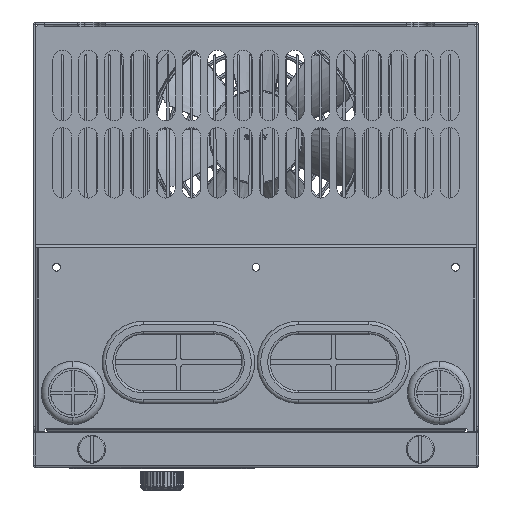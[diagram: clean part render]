
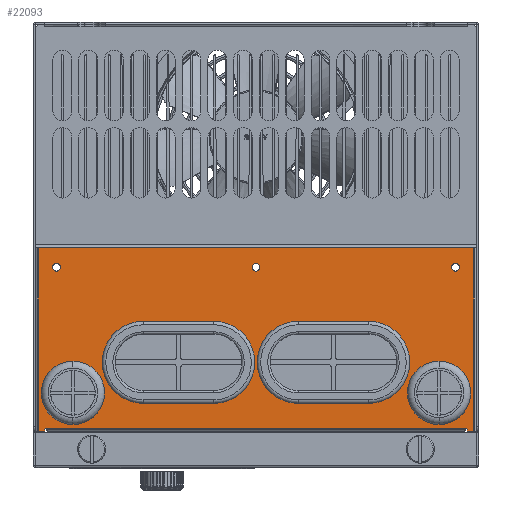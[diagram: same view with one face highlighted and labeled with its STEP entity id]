
A CAD part, left-side view. The second image highlights one B-rep face of the part: STEP entity #22093.
In plain terms, the highlighted planar face has unit normal (-1, 0, 0).
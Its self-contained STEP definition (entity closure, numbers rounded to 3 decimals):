
#18586=DIRECTION('',(0.,1.,0.));
#18587=VECTOR('',#18586,185.6);
#18588=CARTESIAN_POINT('',(-140.,-92.8,-96.2));
#18589=LINE('',#18588,#18587);
#18602=CARTESIAN_POINT('',(-140.,89.5,-173.8));
#18603=DIRECTION('',(-1.,0.,0.));
#18604=DIRECTION('',(0.,0.,1.));
#18605=AXIS2_PLACEMENT_3D('',#18602,#18603,#18604);
#18607=DIRECTION('',(0.,0.,-1.));
#18608=VECTOR('',#18607,0.7);
#18609=CARTESIAN_POINT('',(-140.,90.,-173.8));
#18610=LINE('',#18609,#18608);
#18611=DIRECTION('',(0.,1.,0.));
#18612=VECTOR('',#18611,2.8);
#18613=CARTESIAN_POINT('',(-140.,90.,-174.5));
#18614=LINE('',#18613,#18612);
#18615=DIRECTION('',(0.,1.,0.));
#18616=VECTOR('',#18615,2.8);
#18617=CARTESIAN_POINT('',(-140.,-92.8,-174.5));
#18618=LINE('',#18617,#18616);
#18619=CARTESIAN_POINT('',(-140.,-89.5,-173.8));
#18620=DIRECTION('',(-1.,0.,0.));
#18621=DIRECTION('',(0.,-1.,0.));
#18622=AXIS2_PLACEMENT_3D('',#18619,#18620,#18621);
#18624=CARTESIAN_POINT('',(-140.,78.,-158.));
#18625=DIRECTION('',(-1.,0.,0.));
#18626=DIRECTION('',(0.,-1.,0.));
#18627=AXIS2_PLACEMENT_3D('',#18624,#18625,#18626);
#18629=CARTESIAN_POINT('',(-140.,78.,-158.));
#18630=DIRECTION('',(-1.,0.,0.));
#18631=DIRECTION('',(0.,1.,0.));
#18632=AXIS2_PLACEMENT_3D('',#18629,#18630,#18631);
#18634=CARTESIAN_POINT('',(-140.,-78.,-158.));
#18635=DIRECTION('',(-1.,0.,0.));
#18636=DIRECTION('',(0.,-1.,0.));
#18637=AXIS2_PLACEMENT_3D('',#18634,#18635,#18636);
#18639=CARTESIAN_POINT('',(-140.,-78.,-158.));
#18640=DIRECTION('',(-1.,0.,0.));
#18641=DIRECTION('',(0.,1.,0.));
#18642=AXIS2_PLACEMENT_3D('',#18639,#18640,#18641);
#18644=DIRECTION('',(0.,-1.,0.));
#18645=VECTOR('',#18644,30.);
#18646=CARTESIAN_POINT('',(-140.,48.,-159.));
#18647=LINE('',#18646,#18645);
#18648=CARTESIAN_POINT('',(-140.,18.,-145.));
#18649=DIRECTION('',(-1.,0.,0.));
#18650=DIRECTION('',(0.,0.,-1.));
#18651=AXIS2_PLACEMENT_3D('',#18648,#18649,#18650);
#18653=DIRECTION('',(0.,1.,0.));
#18654=VECTOR('',#18653,30.);
#18655=CARTESIAN_POINT('',(-140.,18.,-131.));
#18656=LINE('',#18655,#18654);
#18657=CARTESIAN_POINT('',(-140.,48.,-145.));
#18658=DIRECTION('',(-1.,0.,0.));
#18659=DIRECTION('',(0.,0.,1.));
#18660=AXIS2_PLACEMENT_3D('',#18657,#18658,#18659);
#18662=CARTESIAN_POINT('',(-140.,-18.,-145.));
#18663=DIRECTION('',(-1.,0.,0.));
#18664=DIRECTION('',(0.,0.,1.));
#18665=AXIS2_PLACEMENT_3D('',#18662,#18663,#18664);
#18667=DIRECTION('',(0.,-1.,0.));
#18668=VECTOR('',#18667,30.);
#18669=CARTESIAN_POINT('',(-140.,-18.,-159.));
#18670=LINE('',#18669,#18668);
#18671=CARTESIAN_POINT('',(-140.,-48.,-145.));
#18672=DIRECTION('',(-1.,0.,0.));
#18673=DIRECTION('',(0.,0.,-1.));
#18674=AXIS2_PLACEMENT_3D('',#18671,#18672,#18673);
#18676=DIRECTION('',(0.,1.,0.));
#18677=VECTOR('',#18676,30.);
#18678=CARTESIAN_POINT('',(-140.,-48.,-131.));
#18679=LINE('',#18678,#18677);
#18680=CARTESIAN_POINT('',(-140.,-85.,-104.5));
#18681=DIRECTION('',(-1.,0.,0.));
#18682=DIRECTION('',(0.,-1.,0.));
#18683=AXIS2_PLACEMENT_3D('',#18680,#18681,#18682);
#18685=CARTESIAN_POINT('',(-140.,-85.,-104.5));
#18686=DIRECTION('',(-1.,0.,0.));
#18687=DIRECTION('',(0.,1.,0.));
#18688=AXIS2_PLACEMENT_3D('',#18685,#18686,#18687);
#18690=CARTESIAN_POINT('',(-140.,0.,-104.5));
#18691=DIRECTION('',(-1.,0.,0.));
#18692=DIRECTION('',(0.,-1.,0.));
#18693=AXIS2_PLACEMENT_3D('',#18690,#18691,#18692);
#18695=CARTESIAN_POINT('',(-140.,0.,-104.5));
#18696=DIRECTION('',(-1.,0.,0.));
#18697=DIRECTION('',(0.,1.,0.));
#18698=AXIS2_PLACEMENT_3D('',#18695,#18696,#18697);
#18700=CARTESIAN_POINT('',(-140.,85.,-104.5));
#18701=DIRECTION('',(-1.,0.,0.));
#18702=DIRECTION('',(0.,-1.,0.));
#18703=AXIS2_PLACEMENT_3D('',#18700,#18701,#18702);
#18705=CARTESIAN_POINT('',(-140.,85.,-104.5));
#18706=DIRECTION('',(-1.,0.,0.));
#18707=DIRECTION('',(0.,1.,0.));
#18708=AXIS2_PLACEMENT_3D('',#18705,#18706,#18707);
#18710=DIRECTION('',(0.,-1.,0.));
#18711=VECTOR('',#18710,179.);
#18712=CARTESIAN_POINT('',(-140.,89.5,-173.3));
#18713=LINE('',#18712,#18711);
#18771=DIRECTION('',(0.,0.,-1.));
#18772=VECTOR('',#18771,0.7);
#18773=CARTESIAN_POINT('',(-140.,-90.,-173.8));
#18774=LINE('',#18773,#18772);
#18801=DIRECTION('',(0.,0.,1.));
#18802=VECTOR('',#18801,78.3);
#18803=CARTESIAN_POINT('',(-140.,-92.8,-174.5));
#18804=LINE('',#18803,#18802);
#19236=DIRECTION('',(0.,0.,-1.));
#19237=VECTOR('',#19236,78.3);
#19238=CARTESIAN_POINT('',(-140.,92.8,-96.2));
#19239=LINE('',#19238,#19237);
#20962=CARTESIAN_POINT('',(-140.,-92.8,-96.2));
#20963=CARTESIAN_POINT('',(-140.,92.8,-96.2));
#20964=VERTEX_POINT('',#20962);
#20965=VERTEX_POINT('',#20963);
#20970=CARTESIAN_POINT('',(-140.,89.5,-173.3));
#20971=CARTESIAN_POINT('',(-140.,-89.5,-173.3));
#20972=VERTEX_POINT('',#20970);
#20973=VERTEX_POINT('',#20971);
#20974=CARTESIAN_POINT('',(-140.,90.,-173.8));
#20975=VERTEX_POINT('',#20974);
#20976=CARTESIAN_POINT('',(-140.,90.,-174.5));
#20977=VERTEX_POINT('',#20976);
#20978=CARTESIAN_POINT('',(-140.,92.8,-174.5));
#20979=VERTEX_POINT('',#20978);
#20980=CARTESIAN_POINT('',(-140.,-92.8,-174.5));
#20981=VERTEX_POINT('',#20980);
#20982=CARTESIAN_POINT('',(-140.,-90.,-174.5));
#20983=VERTEX_POINT('',#20982);
#20984=CARTESIAN_POINT('',(-140.,-90.,-173.8));
#20985=VERTEX_POINT('',#20984);
#20986=CARTESIAN_POINT('',(-140.,67.,-158.));
#20987=CARTESIAN_POINT('',(-140.,89.,-158.));
#20988=VERTEX_POINT('',#20986);
#20989=VERTEX_POINT('',#20987);
#20990=CARTESIAN_POINT('',(-140.,-89.,-158.));
#20991=CARTESIAN_POINT('',(-140.,-67.,-158.));
#20992=VERTEX_POINT('',#20990);
#20993=VERTEX_POINT('',#20991);
#20994=CARTESIAN_POINT('',(-140.,48.,-159.));
#20995=CARTESIAN_POINT('',(-140.,18.,-159.));
#20996=VERTEX_POINT('',#20994);
#20997=VERTEX_POINT('',#20995);
#20998=CARTESIAN_POINT('',(-140.,18.,-131.));
#20999=VERTEX_POINT('',#20998);
#21000=CARTESIAN_POINT('',(-140.,48.,-131.));
#21001=VERTEX_POINT('',#21000);
#21002=CARTESIAN_POINT('',(-140.,-18.,-131.));
#21003=CARTESIAN_POINT('',(-140.,-18.,-159.));
#21004=VERTEX_POINT('',#21002);
#21005=VERTEX_POINT('',#21003);
#21006=CARTESIAN_POINT('',(-140.,-48.,-159.));
#21007=VERTEX_POINT('',#21006);
#21008=CARTESIAN_POINT('',(-140.,-48.,-131.));
#21009=VERTEX_POINT('',#21008);
#21010=CARTESIAN_POINT('',(-140.,-86.65,-104.5));
#21011=CARTESIAN_POINT('',(-140.,-83.35,-104.5));
#21012=VERTEX_POINT('',#21010);
#21013=VERTEX_POINT('',#21011);
#21014=CARTESIAN_POINT('',(-140.,-1.65,-104.5));
#21015=CARTESIAN_POINT('',(-140.,1.65,-104.5));
#21016=VERTEX_POINT('',#21014);
#21017=VERTEX_POINT('',#21015);
#21018=CARTESIAN_POINT('',(-140.,83.35,-104.5));
#21019=CARTESIAN_POINT('',(-140.,86.65,-104.5));
#21020=VERTEX_POINT('',#21018);
#21021=VERTEX_POINT('',#21019);
#22017=CARTESIAN_POINT('',(-140.,94.,-95.));
#22018=DIRECTION('',(-1.,0.,0.));
#22019=DIRECTION('',(0.,1.,0.));
#22020=AXIS2_PLACEMENT_3D('',#22017,#22018,#22019);
#22021=PLANE('',#22020);
#22023=ORIENTED_EDGE('',*,*,#22022,.F.);
#22025=ORIENTED_EDGE('',*,*,#22024,.T.);
#22027=ORIENTED_EDGE('',*,*,#22026,.T.);
#22029=ORIENTED_EDGE('',*,*,#22028,.T.);
#22031=ORIENTED_EDGE('',*,*,#22030,.F.);
#22032=ORIENTED_EDGE('',*,*,#21996,.F.);
#22034=ORIENTED_EDGE('',*,*,#22033,.F.);
#22036=ORIENTED_EDGE('',*,*,#22035,.T.);
#22038=ORIENTED_EDGE('',*,*,#22037,.F.);
#22040=ORIENTED_EDGE('',*,*,#22039,.T.);
#22041=EDGE_LOOP('',(#22023,#22025,#22027,#22029,#22031,#22032,#22034,#22036,
#22038,#22040));
#22042=FACE_OUTER_BOUND('',#22041,.F.);
#22044=ORIENTED_EDGE('',*,*,#22043,.T.);
#22046=ORIENTED_EDGE('',*,*,#22045,.T.);
#22047=EDGE_LOOP('',(#22044,#22046));
#22048=FACE_BOUND('',#22047,.F.);
#22050=ORIENTED_EDGE('',*,*,#22049,.T.);
#22052=ORIENTED_EDGE('',*,*,#22051,.T.);
#22053=EDGE_LOOP('',(#22050,#22052));
#22054=FACE_BOUND('',#22053,.F.);
#22056=ORIENTED_EDGE('',*,*,#22055,.T.);
#22058=ORIENTED_EDGE('',*,*,#22057,.T.);
#22060=ORIENTED_EDGE('',*,*,#22059,.T.);
#22062=ORIENTED_EDGE('',*,*,#22061,.T.);
#22063=EDGE_LOOP('',(#22056,#22058,#22060,#22062));
#22064=FACE_BOUND('',#22063,.F.);
#22066=ORIENTED_EDGE('',*,*,#22065,.T.);
#22068=ORIENTED_EDGE('',*,*,#22067,.T.);
#22070=ORIENTED_EDGE('',*,*,#22069,.T.);
#22072=ORIENTED_EDGE('',*,*,#22071,.T.);
#22073=EDGE_LOOP('',(#22066,#22068,#22070,#22072));
#22074=FACE_BOUND('',#22073,.F.);
#22076=ORIENTED_EDGE('',*,*,#22075,.T.);
#22078=ORIENTED_EDGE('',*,*,#22077,.T.);
#22079=EDGE_LOOP('',(#22076,#22078));
#22080=FACE_BOUND('',#22079,.F.);
#22082=ORIENTED_EDGE('',*,*,#22081,.T.);
#22084=ORIENTED_EDGE('',*,*,#22083,.T.);
#22085=EDGE_LOOP('',(#22082,#22084));
#22086=FACE_BOUND('',#22085,.F.);
#22088=ORIENTED_EDGE('',*,*,#22087,.T.);
#22090=ORIENTED_EDGE('',*,*,#22089,.T.);
#22091=EDGE_LOOP('',(#22088,#22090));
#22092=FACE_BOUND('',#22091,.F.);
#18606=CIRCLE('',#18605,0.5);
#18623=CIRCLE('',#18622,0.5);
#18628=CIRCLE('',#18627,11.);
#18633=CIRCLE('',#18632,11.);
#18638=CIRCLE('',#18637,11.);
#18643=CIRCLE('',#18642,11.);
#18652=CIRCLE('',#18651,14.);
#18661=CIRCLE('',#18660,14.);
#18666=CIRCLE('',#18665,14.);
#18675=CIRCLE('',#18674,14.);
#18684=CIRCLE('',#18683,1.65);
#18689=CIRCLE('',#18688,1.65);
#18694=CIRCLE('',#18693,1.65);
#18699=CIRCLE('',#18698,1.65);
#18704=CIRCLE('',#18703,1.65);
#18709=CIRCLE('',#18708,1.65);
#21996=EDGE_CURVE('',#20964,#20965,#18589,.T.);
#22022=EDGE_CURVE('',#20972,#20973,#18713,.T.);
#22024=EDGE_CURVE('',#20972,#20975,#18606,.T.);
#22026=EDGE_CURVE('',#20975,#20977,#18610,.T.);
#22028=EDGE_CURVE('',#20977,#20979,#18614,.T.);
#22030=EDGE_CURVE('',#20965,#20979,#19239,.T.);
#22033=EDGE_CURVE('',#20981,#20964,#18804,.T.);
#22035=EDGE_CURVE('',#20981,#20983,#18618,.T.);
#22037=EDGE_CURVE('',#20985,#20983,#18774,.T.);
#22039=EDGE_CURVE('',#20985,#20973,#18623,.T.);
#22043=EDGE_CURVE('',#20988,#20989,#18628,.T.);
#22045=EDGE_CURVE('',#20989,#20988,#18633,.T.);
#22049=EDGE_CURVE('',#20992,#20993,#18638,.T.);
#22051=EDGE_CURVE('',#20993,#20992,#18643,.T.);
#22055=EDGE_CURVE('',#20996,#20997,#18647,.T.);
#22057=EDGE_CURVE('',#20997,#20999,#18652,.T.);
#22059=EDGE_CURVE('',#20999,#21001,#18656,.T.);
#22061=EDGE_CURVE('',#21001,#20996,#18661,.T.);
#22065=EDGE_CURVE('',#21004,#21005,#18666,.T.);
#22067=EDGE_CURVE('',#21005,#21007,#18670,.T.);
#22069=EDGE_CURVE('',#21007,#21009,#18675,.T.);
#22071=EDGE_CURVE('',#21009,#21004,#18679,.T.);
#22075=EDGE_CURVE('',#21012,#21013,#18684,.T.);
#22077=EDGE_CURVE('',#21013,#21012,#18689,.T.);
#22081=EDGE_CURVE('',#21016,#21017,#18694,.T.);
#22083=EDGE_CURVE('',#21017,#21016,#18699,.T.);
#22087=EDGE_CURVE('',#21020,#21021,#18704,.T.);
#22089=EDGE_CURVE('',#21021,#21020,#18709,.T.);
#22093=ADVANCED_FACE('',(#22042,#22048,#22054,#22064,#22074,#22080,#22086,
#22092),#22021,.T.);
